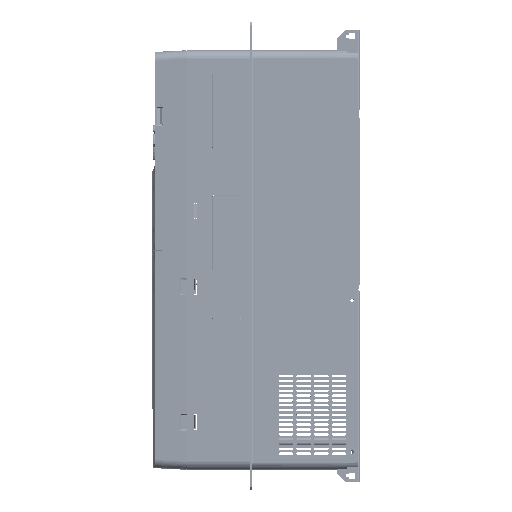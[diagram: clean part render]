
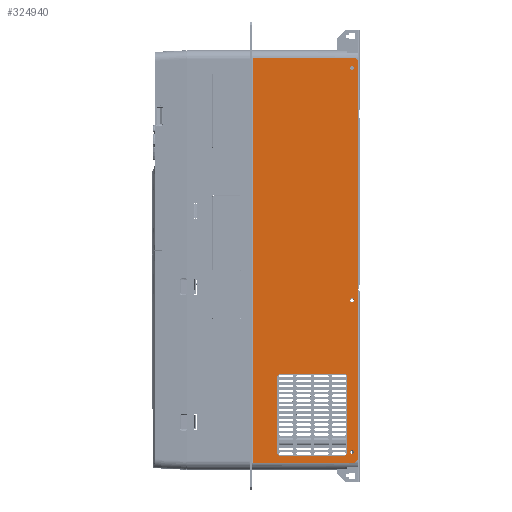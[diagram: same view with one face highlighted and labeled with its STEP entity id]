
A CAD part, left-side view. The second image highlights one B-rep face of the part: STEP entity #324940.
In plain terms, the highlighted planar face has unit normal (-1, 0, 0).
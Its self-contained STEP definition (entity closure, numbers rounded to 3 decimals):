
#323428=DIRECTION('',(0.,-0.707,-0.707));
#323429=VECTOR('',#323428,4.243);
#323430=CARTESIAN_POINT('',(-144.,144.,-31.75));
#323431=LINE('',#323430,#323429);
#323506=CARTESIAN_POINT('',(-144.,238.,-124.25));
#323507=DIRECTION('',(1.,0.,0.));
#323508=DIRECTION('',(0.,0.,-1.));
#323509=AXIS2_PLACEMENT_3D('',#323506,#323507,#323508);
#323511=CARTESIAN_POINT('',(-144.,238.,-124.25));
#323512=DIRECTION('',(1.,0.,0.));
#323513=DIRECTION('',(0.,0.,1.));
#323514=AXIS2_PLACEMENT_3D('',#323511,#323512,#323513);
#323516=CARTESIAN_POINT('',(-144.,50.,-124.25));
#323517=DIRECTION('',(1.,0.,0.));
#323518=DIRECTION('',(0.,0.,-1.));
#323519=AXIS2_PLACEMENT_3D('',#323516,#323517,#323518);
#323521=CARTESIAN_POINT('',(-144.,50.,-124.25));
#323522=DIRECTION('',(1.,0.,0.));
#323523=DIRECTION('',(0.,0.,1.));
#323524=AXIS2_PLACEMENT_3D('',#323521,#323522,#323523);
#323526=CARTESIAN_POINT('',(-144.,-238.,-124.25));
#323527=DIRECTION('',(1.,0.,0.));
#323528=DIRECTION('',(0.,0.,-1.));
#323529=AXIS2_PLACEMENT_3D('',#323526,#323527,#323528);
#323531=CARTESIAN_POINT('',(-144.,-238.,-124.25));
#323532=DIRECTION('',(1.,0.,0.));
#323533=DIRECTION('',(0.,0.,1.));
#323534=AXIS2_PLACEMENT_3D('',#323531,#323532,#323533);
#323536=DIRECTION('',(0.,1.,0.));
#323537=VECTOR('',#323536,96.);
#323538=CARTESIAN_POINT('',(-144.,144.,-118.25));
#323539=LINE('',#323538,#323537);
#323540=DIRECTION('',(0.,0.,-1.));
#323541=VECTOR('',#323540,80.5);
#323542=CARTESIAN_POINT('',(-144.,141.,-34.75));
#323543=LINE('',#323542,#323541);
#323544=DIRECTION('',(0.,-1.,0.));
#323545=VECTOR('',#323544,96.);
#323546=CARTESIAN_POINT('',(-144.,240.,-31.75));
#323547=LINE('',#323546,#323545);
#323548=DIRECTION('',(0.,0.,1.));
#323549=VECTOR('',#323548,80.5);
#323550=CARTESIAN_POINT('',(-144.,243.,-115.25));
#323551=LINE('',#323550,#323549);
#323552=DIRECTION('',(0.,-0.707,-0.707));
#323553=VECTOR('',#323552,5.657);
#323554=CARTESIAN_POINT('',(-144.,251.,-128.));
#323555=LINE('',#323554,#323553);
#323556=DIRECTION('',(0.,0.,1.));
#323557=VECTOR('',#323556,126.);
#323558=CARTESIAN_POINT('',(-144.,251.,-128.));
#323559=LINE('',#323558,#323557);
#323560=DIRECTION('',(0.,0.,-1.));
#323561=VECTOR('',#323560,126.);
#323562=CARTESIAN_POINT('',(-144.,-251.,-2.));
#323563=LINE('',#323562,#323561);
#323564=DIRECTION('',(0.,-0.707,0.707));
#323565=VECTOR('',#323564,5.657);
#323566=CARTESIAN_POINT('',(-144.,-247.,-132.));
#323567=LINE('',#323566,#323565);
#323568=DIRECTION('',(0.,1.,0.));
#323569=VECTOR('',#323568,494.);
#323570=CARTESIAN_POINT('',(-144.,-247.,-132.));
#323571=LINE('',#323570,#323569);
#323592=DIRECTION('',(0.,0.707,-0.707));
#323593=VECTOR('',#323592,4.243);
#323594=CARTESIAN_POINT('',(-144.,141.,-115.25));
#323595=LINE('',#323594,#323593);
#323600=DIRECTION('',(0.,-0.707,0.707));
#323601=VECTOR('',#323600,4.243);
#323602=CARTESIAN_POINT('',(-144.,243.,-34.75));
#323603=LINE('',#323602,#323601);
#323608=DIRECTION('',(0.,0.707,0.707));
#323609=VECTOR('',#323608,4.243);
#323610=CARTESIAN_POINT('',(-144.,240.,-118.25));
#323611=LINE('',#323610,#323609);
#323902=DIRECTION('',(0.,-1.,0.));
#323903=VECTOR('',#323902,502.);
#323904=CARTESIAN_POINT('',(-144.,251.,-2.));
#323905=LINE('',#323904,#323903);
#324018=CARTESIAN_POINT('',(-144.,251.,-2.));
#324019=CARTESIAN_POINT('',(-144.,-251.,-2.));
#324020=VERTEX_POINT('',#324018);
#324021=VERTEX_POINT('',#324019);
#324082=CARTESIAN_POINT('',(-144.,238.,-126.75));
#324083=CARTESIAN_POINT('',(-144.,238.,-121.75));
#324084=VERTEX_POINT('',#324082);
#324085=VERTEX_POINT('',#324083);
#324162=CARTESIAN_POINT('',(-144.,251.,-128.));
#324163=VERTEX_POINT('',#324162);
#324164=CARTESIAN_POINT('',(-144.,247.,-132.));
#324165=VERTEX_POINT('',#324164);
#324170=CARTESIAN_POINT('',(-144.,-247.,-132.));
#324171=VERTEX_POINT('',#324170);
#324172=CARTESIAN_POINT('',(-144.,-251.,-128.));
#324173=VERTEX_POINT('',#324172);
#324198=CARTESIAN_POINT('',(-144.,50.,-126.75));
#324199=CARTESIAN_POINT('',(-144.,50.,-121.75));
#324200=VERTEX_POINT('',#324198);
#324201=VERTEX_POINT('',#324199);
#324202=CARTESIAN_POINT('',(-144.,-238.,-126.75));
#324203=CARTESIAN_POINT('',(-144.,-238.,-121.75));
#324204=VERTEX_POINT('',#324202);
#324205=VERTEX_POINT('',#324203);
#324255=CARTESIAN_POINT('',(-144.,141.,-34.75));
#324257=VERTEX_POINT('',#324255);
#324259=CARTESIAN_POINT('',(-144.,144.,-31.75));
#324261=VERTEX_POINT('',#324259);
#324263=CARTESIAN_POINT('',(-144.,144.,-118.25));
#324265=VERTEX_POINT('',#324263);
#324267=CARTESIAN_POINT('',(-144.,141.,-115.25));
#324269=VERTEX_POINT('',#324267);
#324271=CARTESIAN_POINT('',(-144.,240.,-31.75));
#324273=VERTEX_POINT('',#324271);
#324275=CARTESIAN_POINT('',(-144.,243.,-34.75));
#324277=VERTEX_POINT('',#324275);
#324279=CARTESIAN_POINT('',(-144.,243.,-115.25));
#324281=VERTEX_POINT('',#324279);
#324283=CARTESIAN_POINT('',(-144.,240.,-118.25));
#324285=VERTEX_POINT('',#324283);
#324892=CARTESIAN_POINT('',(-144.,-261.,2.));
#324893=DIRECTION('',(1.,0.,0.));
#324894=DIRECTION('',(0.,-1.,0.));
#324895=AXIS2_PLACEMENT_3D('',#324892,#324893,#324894);
#324896=PLANE('',#324895);
#324898=ORIENTED_EDGE('',*,*,#324897,.F.);
#324900=ORIENTED_EDGE('',*,*,#324899,.T.);
#324902=ORIENTED_EDGE('',*,*,#324901,.T.);
#324904=ORIENTED_EDGE('',*,*,#324903,.T.);
#324906=ORIENTED_EDGE('',*,*,#324905,.F.);
#324908=ORIENTED_EDGE('',*,*,#324907,.T.);
#324909=EDGE_LOOP('',(#324898,#324900,#324902,#324904,#324906,#324908));
#324910=FACE_OUTER_BOUND('',#324909,.F.);
#324912=ORIENTED_EDGE('',*,*,#324911,.F.);
#324914=ORIENTED_EDGE('',*,*,#324913,.F.);
#324915=EDGE_LOOP('',(#324912,#324914));
#324916=FACE_BOUND('',#324915,.F.);
#324918=ORIENTED_EDGE('',*,*,#324917,.F.);
#324920=ORIENTED_EDGE('',*,*,#324919,.F.);
#324921=EDGE_LOOP('',(#324918,#324920));
#324922=FACE_BOUND('',#324921,.F.);
#324923=ORIENTED_EDGE('',*,*,#324736,.F.);
#324925=ORIENTED_EDGE('',*,*,#324924,.F.);
#324926=ORIENTED_EDGE('',*,*,#324778,.F.);
#324927=ORIENTED_EDGE('',*,*,#324808,.F.);
#324928=ORIENTED_EDGE('',*,*,#324656,.F.);
#324930=ORIENTED_EDGE('',*,*,#324929,.F.);
#324931=ORIENTED_EDGE('',*,*,#324698,.F.);
#324933=ORIENTED_EDGE('',*,*,#324932,.F.);
#324934=EDGE_LOOP('',(#324923,#324925,#324926,#324927,#324928,#324930,#324931,
#324933));
#324935=FACE_BOUND('',#324934,.F.);
#324936=ORIENTED_EDGE('',*,*,#324872,.F.);
#324937=ORIENTED_EDGE('',*,*,#324886,.F.);
#324938=EDGE_LOOP('',(#324936,#324937));
#324939=FACE_BOUND('',#324938,.F.);
#323510=CIRCLE('',#323509,2.5);
#323515=CIRCLE('',#323514,2.5);
#323520=CIRCLE('',#323519,2.5);
#323525=CIRCLE('',#323524,2.5);
#323530=CIRCLE('',#323529,2.5);
#323535=CIRCLE('',#323534,2.5);
#324656=EDGE_CURVE('',#324273,#324261,#323547,.T.);
#324698=EDGE_CURVE('',#324281,#324277,#323551,.T.);
#324736=EDGE_CURVE('',#324265,#324285,#323539,.T.);
#324778=EDGE_CURVE('',#324257,#324269,#323543,.T.);
#324808=EDGE_CURVE('',#324261,#324257,#323431,.T.);
#324872=EDGE_CURVE('',#324084,#324085,#323510,.T.);
#324886=EDGE_CURVE('',#324085,#324084,#323515,.T.);
#324897=EDGE_CURVE('',#324163,#324165,#323555,.T.);
#324899=EDGE_CURVE('',#324163,#324020,#323559,.T.);
#324901=EDGE_CURVE('',#324020,#324021,#323905,.T.);
#324903=EDGE_CURVE('',#324021,#324173,#323563,.T.);
#324905=EDGE_CURVE('',#324171,#324173,#323567,.T.);
#324907=EDGE_CURVE('',#324171,#324165,#323571,.T.);
#324911=EDGE_CURVE('',#324200,#324201,#323520,.T.);
#324913=EDGE_CURVE('',#324201,#324200,#323525,.T.);
#324917=EDGE_CURVE('',#324204,#324205,#323530,.T.);
#324919=EDGE_CURVE('',#324205,#324204,#323535,.T.);
#324924=EDGE_CURVE('',#324269,#324265,#323595,.T.);
#324929=EDGE_CURVE('',#324277,#324273,#323603,.T.);
#324932=EDGE_CURVE('',#324285,#324281,#323611,.T.);
#324940=ADVANCED_FACE('',(#324910,#324916,#324922,#324935,#324939),#324896,.F.);
